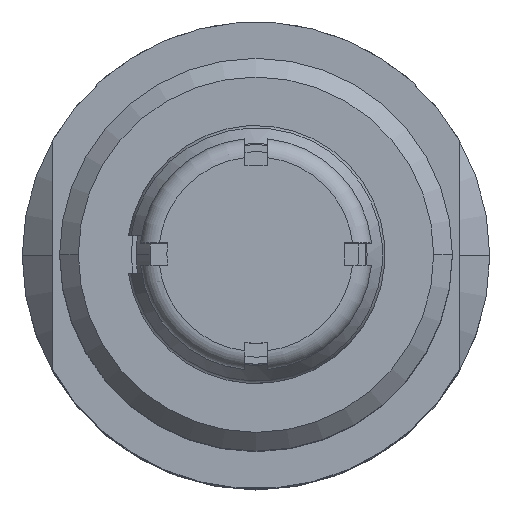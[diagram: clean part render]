
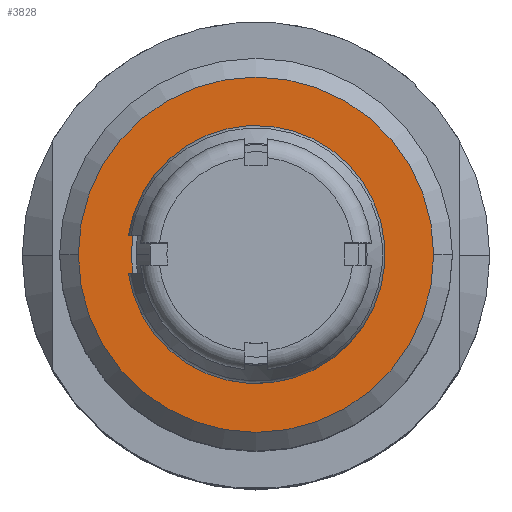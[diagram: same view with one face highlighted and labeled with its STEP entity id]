
A CAD part, top view. The second image highlights one B-rep face of the part: STEP entity #3828.
In plain terms, the highlighted planar face has unit normal (0, 0, 1).
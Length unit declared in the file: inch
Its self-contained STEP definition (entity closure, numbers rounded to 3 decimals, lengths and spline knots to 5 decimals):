
#50 = VERTEX_POINT ( 'NONE', #2961 ) ;
#66 = EDGE_CURVE ( 'NONE', #2736, #436, #182, .T. ) ;
#105 = DIRECTION ( 'NONE',  ( 1., 0., 0. ) ) ;
#134 = CARTESIAN_POINT ( 'NONE',  ( 0., 0., -0.16 ) ) ;
#182 = CIRCLE ( 'NONE', #3482, 0.095 ) ;
#189 = DIRECTION ( 'NONE',  ( 0., 0., 1. ) ) ;
#227 = ORIENTED_EDGE ( 'NONE', *, *, #3695, .T. ) ;
#336 = ORIENTED_EDGE ( 'NONE', *, *, #2556, .F. ) ;
#436 = VERTEX_POINT ( 'NONE', #3945 ) ;
#474 = AXIS2_PLACEMENT_3D ( 'NONE', #1660, #2593, #1015 ) ;
#488 = FACE_BOUND ( 'NONE', #2706, .T. ) ;
#585 = ORIENTED_EDGE ( 'NONE', *, *, #2636, .F. ) ;
#595 = PLANE ( 'NONE',  #3108 ) ;
#629 = AXIS2_PLACEMENT_3D ( 'NONE', #134, #2635, #2652 ) ;
#642 = ORIENTED_EDGE ( 'NONE', *, *, #66, .T. ) ;
#1015 = DIRECTION ( 'NONE',  ( 1., 0., 0. ) ) ;
#1016 = CIRCLE ( 'NONE', #2120, 0.095 ) ;
#1191 = CIRCLE ( 'NONE', #474, 0.0665 ) ;
#1351 = CARTESIAN_POINT ( 'NONE',  ( 0., 0., -0.16 ) ) ;
#1557 = CARTESIAN_POINT ( 'NONE',  ( 0., 0.0665, -0.16 ) ) ;
#1660 = CARTESIAN_POINT ( 'NONE',  ( 0., 0., -0.16 ) ) ;
#1775 = CARTESIAN_POINT ( 'NONE',  ( 0.095, 0., -0.16 ) ) ;
#1876 = DIRECTION ( 'NONE',  ( -1., 0., 0. ) ) ;
#1976 = EDGE_LOOP ( 'NONE', ( #227, #642 ) ) ;
#2120 = AXIS2_PLACEMENT_3D ( 'NONE', #3339, #189, #2390 ) ;
#2380 = CIRCLE ( 'NONE', #629, 0.0665 ) ;
#2390 = DIRECTION ( 'NONE',  ( 1., 0., 0. ) ) ;
#2482 = DIRECTION ( 'NONE',  ( 0., 0., -1. ) ) ;
#2556 = EDGE_CURVE ( 'NONE', #2780, #50, #1191, .T. ) ;
#2593 = DIRECTION ( 'NONE',  ( 0., 0., 1. ) ) ;
#2635 = DIRECTION ( 'NONE',  ( 0., 0., 1. ) ) ;
#2636 = EDGE_CURVE ( 'NONE', #50, #2780, #2380, .T. ) ;
#2652 = DIRECTION ( 'NONE',  ( 1., 0., 0. ) ) ;
#2706 = EDGE_LOOP ( 'NONE', ( #336, #585 ) ) ;
#2736 = VERTEX_POINT ( 'NONE', #1775 ) ;
#2780 = VERTEX_POINT ( 'NONE', #3749 ) ;
#2961 = CARTESIAN_POINT ( 'NONE',  ( -0.0665, 0., -0.16 ) ) ;
#3108 = AXIS2_PLACEMENT_3D ( 'NONE', #1557, #2482, #1876 ) ;
#3111 = FACE_OUTER_BOUND ( 'NONE', #1976, .T. ) ;
#3339 = CARTESIAN_POINT ( 'NONE',  ( 0., 0., -0.16 ) ) ;
#3482 = AXIS2_PLACEMENT_3D ( 'NONE', #1351, #3901, #105 ) ;
#3695 = EDGE_CURVE ( 'NONE', #436, #2736, #1016, .T. ) ;
#3749 = CARTESIAN_POINT ( 'NONE',  ( 0.0665, 0., -0.16 ) ) ;
#3828 = ADVANCED_FACE ( 'NONE', ( #488, #3111 ), #595, .F. ) ;
#3901 = DIRECTION ( 'NONE',  ( 0., 0., 1. ) ) ;
#3945 = CARTESIAN_POINT ( 'NONE',  ( -0.095, 0., -0.16 ) ) ;
